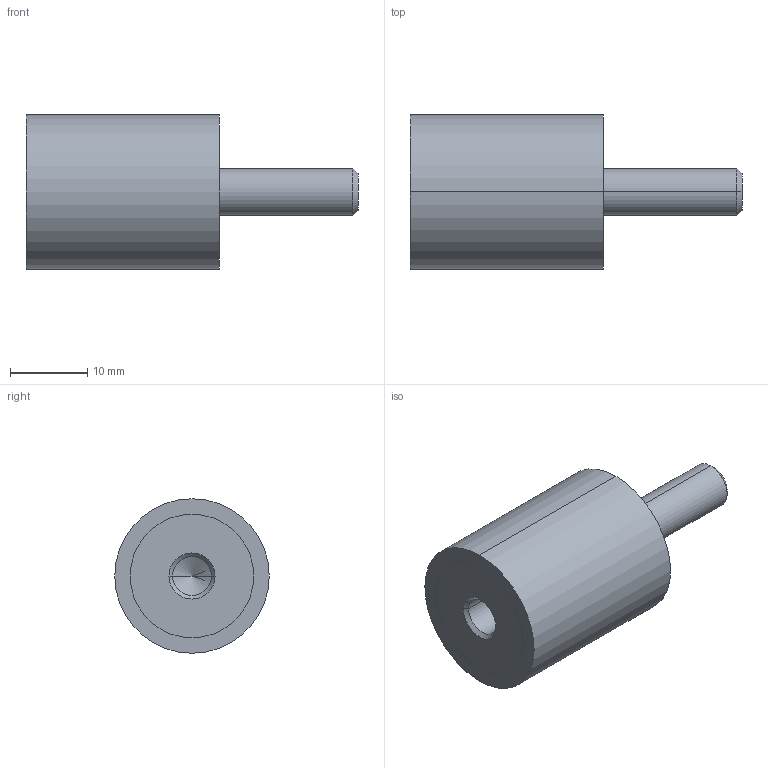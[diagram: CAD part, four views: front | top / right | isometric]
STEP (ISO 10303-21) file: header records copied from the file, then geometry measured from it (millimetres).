
FILE_DESCRIPTION (( 'STEP AP214' ), '1' );
FILE_NAME ('351-20-25-M6-ES-55.step', '2025-07-23T09:49:55', ( '' ), ( '' ), 'SwSTEP 2.0', 'SolidWorks 2022', '' );
FILE_SCHEMA (( 'AUTOMOTIVE_DESIGN' ));
Length unit declared in the file: millimetre
Products named in the file (1): 351-20-25-M6-ES-55
Bounding box: 43 x 20 x 20 mm (x, y, z)
Volume: 8207.2 mm3; surface area: 2640.3 mm2
Topology: 1 solids, 1 shells, 24 faces, 48 edges, 29 vertices
Faces by surface type: cylinder 12, cone 6, plane 6
Entity records: 740 total; most frequent: DIRECTION 124, CARTESIAN_POINT 100, ORIENTED_EDGE 92, AXIS2_PLACEMENT_3D 53, EDGE_CURVE 46, EDGE_LOOP 29, VERTEX_POINT 29, CIRCLE 28
